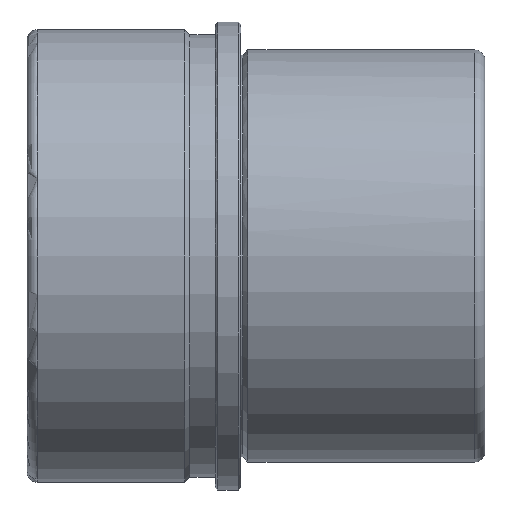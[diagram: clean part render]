
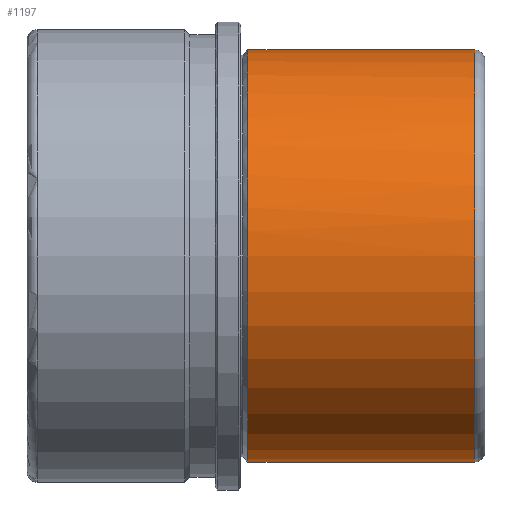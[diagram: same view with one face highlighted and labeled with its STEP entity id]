
A CAD part, front view. The second image highlights one B-rep face of the part: STEP entity #1197.
In plain terms, the highlighted cylindrical face has radius 40.5 mm (diameter 81 mm), a partial arc.
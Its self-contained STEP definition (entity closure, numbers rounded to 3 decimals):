
#943=CARTESIAN_POINT('Vertex',(46.,0.,40.5)) ;
#950=CARTESIAN_POINT('Vertex',(46.,0.,-40.5)) ;
#979=CARTESIAN_POINT('Axis2P3D Location',(46.,0.,0.)) ;
#983=CARTESIAN_POINT('Vertex',(46.,-40.5,0.)) ;
#986=CARTESIAN_POINT('Axis2P3D Location',(46.,0.,0.)) ;
#1125=CARTESIAN_POINT('Line Origine',(48.,0.,40.5)) ;
#1129=CARTESIAN_POINT('Vertex',(1.414,0.,40.5)) ;
#1132=CARTESIAN_POINT('Line Origine',(48.,0.,-40.5)) ;
#1136=CARTESIAN_POINT('Vertex',(1.414,0.,-40.5)) ;
#1166=CARTESIAN_POINT('Axis2P3D Location',(48.,0.,0.)) ;
#1172=CARTESIAN_POINT('Control Point',(1.414,0.,40.5)) ;
#1173=CARTESIAN_POINT('Control Point',(1.414,-6.362,40.5)) ;
#1174=CARTESIAN_POINT('Control Point',(1.414,-12.723,39.251)) ;
#1175=CARTESIAN_POINT('Control Point',(1.414,-18.758,36.751)) ;
#1176=CARTESIAN_POINT('Control Point',(1.414,-29.521,29.521)) ;
#1177=CARTESIAN_POINT('Control Point',(1.414,-36.751,18.758)) ;
#1178=CARTESIAN_POINT('Control Point',(1.414,-39.251,12.723)) ;
#1179=CARTESIAN_POINT('Control Point',(1.414,-40.5,6.362)) ;
#1180=CARTESIAN_POINT('Control Point',(1.414,-40.5,0.)) ;
#1181=CARTESIAN_POINT('Vertex',(1.414,-40.5,0.)) ;
#1184=CARTESIAN_POINT('Axis2P3D Location',(1.414,0.,0.)) ;
#980=DIRECTION('Axis2P3D Direction',(1.,-0.,0.)) ;
#987=DIRECTION('Axis2P3D Direction',(1.,-0.,0.)) ;
#1126=DIRECTION('Vector Direction',(-1.,0.,0.)) ;
#1133=DIRECTION('Vector Direction',(-1.,0.,0.)) ;
#1167=DIRECTION('Axis2P3D Direction',(-1.,-0.,-0.)) ;
#1168=DIRECTION('Axis2P3D XDirection',(0.,0.,-1.)) ;
#1185=DIRECTION('Axis2P3D Direction',(-1.,-0.,-0.)) ;
#981=AXIS2_PLACEMENT_3D('Circle Axis2P3D',#979,#980,$) ;
#988=AXIS2_PLACEMENT_3D('Circle Axis2P3D',#986,#987,$) ;
#1169=AXIS2_PLACEMENT_3D('Cylinder Axis2P3D',#1166,#1167,#1168) ;
#1186=AXIS2_PLACEMENT_3D('Circle Axis2P3D',#1184,#1185,$) ;
#1190=ORIENTED_EDGE('',*,*,#1138,.T.) ;
#1191=ORIENTED_EDGE('',*,*,#990,.F.) ;
#1192=ORIENTED_EDGE('',*,*,#985,.F.) ;
#1193=ORIENTED_EDGE('',*,*,#1131,.T.) ;
#1194=ORIENTED_EDGE('',*,*,#1183,.T.) ;
#1195=ORIENTED_EDGE('',*,*,#1188,.T.) ;
#1127=VECTOR('Line Direction',#1126,1.) ;
#1134=VECTOR('Line Direction',#1133,1.) ;
#1197=ADVANCED_FACE('CF 641 63 x 90',(#1196),#1170,.T.) ;
#1171=B_SPLINE_CURVE_WITH_KNOTS('',5,(#1172,#1173,#1174,#1175,#1176,#1177,#1178,#1179,#1180),.UNSPECIFIED.,.F.,.U.,(6,3,6),(-31.809,0.,31.809),.UNSPECIFIED.) ;
#982=CIRCLE('generated circle',#981,40.5) ;
#989=CIRCLE('generated circle',#988,40.5) ;
#1187=CIRCLE('generated circle',#1186,40.5) ;
#1170=CYLINDRICAL_SURFACE('generated cylinder',#1169,40.5) ;
#985=EDGE_CURVE('',#944,#984,#982,.T.) ;
#990=EDGE_CURVE('',#984,#951,#989,.T.) ;
#1131=EDGE_CURVE('',#944,#1130,#1128,.T.) ;
#1138=EDGE_CURVE('',#1137,#951,#1135,.F.) ;
#1183=EDGE_CURVE('',#1130,#1182,#1171,.T.) ;
#1188=EDGE_CURVE('',#1182,#1137,#1187,.F.) ;
#1189=EDGE_LOOP('',(#1190,#1191,#1192,#1193,#1194,#1195)) ;
#1196=FACE_OUTER_BOUND('',#1189,.T.) ;
#1128=LINE('Line',#1125,#1127) ;
#1135=LINE('Line',#1132,#1134) ;
#944=VERTEX_POINT('',#943) ;
#951=VERTEX_POINT('',#950) ;
#984=VERTEX_POINT('',#983) ;
#1130=VERTEX_POINT('',#1129) ;
#1137=VERTEX_POINT('',#1136) ;
#1182=VERTEX_POINT('',#1181) ;
